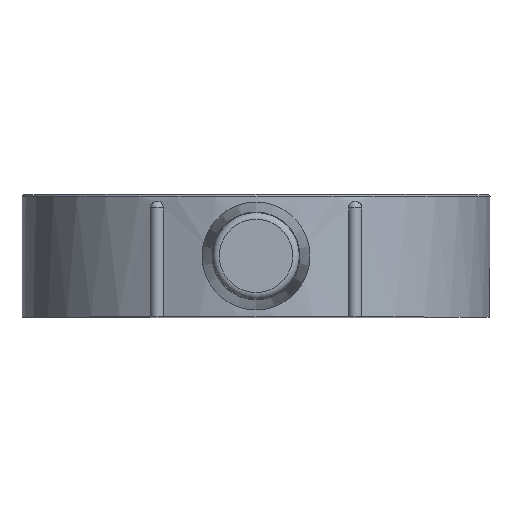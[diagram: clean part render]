
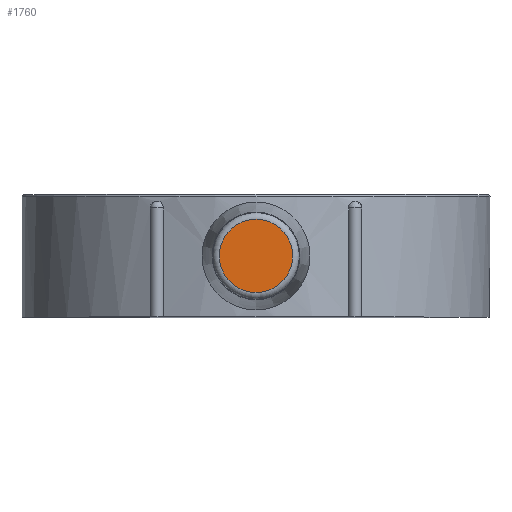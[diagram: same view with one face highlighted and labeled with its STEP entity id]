
A CAD part, top view. The second image highlights one B-rep face of the part: STEP entity #1760.
In plain terms, the highlighted planar face has unit normal (0, 0, 1).
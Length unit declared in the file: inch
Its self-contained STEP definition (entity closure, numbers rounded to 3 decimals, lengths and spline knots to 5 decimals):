
#366=FACE_OUTER_BOUND('',#482,.T.);
#482=EDGE_LOOP('',(#1203));
#624=CIRCLE('',#1920,0.1645);
#744=VERTEX_POINT('',#2674);
#924=EDGE_CURVE('',#744,#744,#624,.T.);
#1203=ORIENTED_EDGE('',*,*,#924,.F.);
#1734=PLANE('',#1919);
#1760=ADVANCED_FACE('',(#366),#1734,.F.);
#1919=AXIS2_PLACEMENT_3D('',#2673,#2164,#2165);
#1920=AXIS2_PLACEMENT_3D('',#2675,#2166,#2167);
#2164=DIRECTION('center_axis',(0.,0.,-1.));
#2165=DIRECTION('ref_axis',(-1.,0.,0.));
#2166=DIRECTION('center_axis',(0.,0.,-1.));
#2167=DIRECTION('ref_axis',(1.,0.,0.));
#2673=CARTESIAN_POINT('Origin',(0.,0.272,2.05));
#2674=CARTESIAN_POINT('',(0.1645,0.272,2.05));
#2675=CARTESIAN_POINT('Origin',(0.,0.272,2.05));
